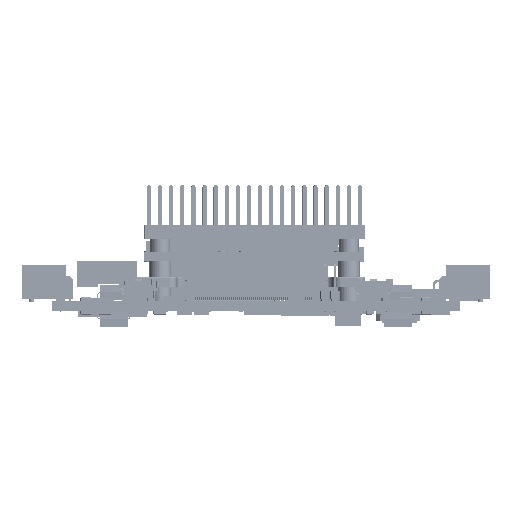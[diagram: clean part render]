
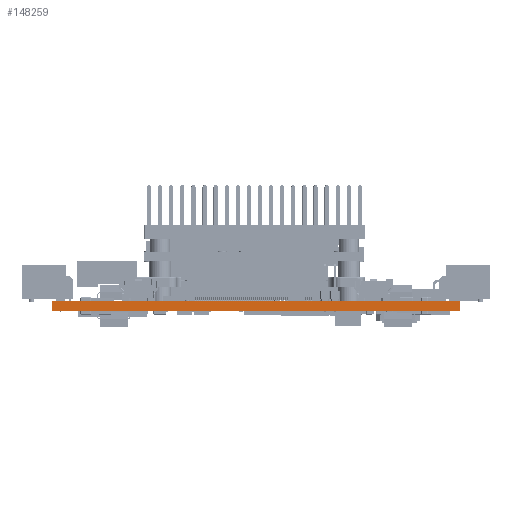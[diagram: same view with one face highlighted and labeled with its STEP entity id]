
A CAD part, left-side view. The second image highlights one B-rep face of the part: STEP entity #148259.
In plain terms, the highlighted planar face has unit normal (-1, 0, 0).
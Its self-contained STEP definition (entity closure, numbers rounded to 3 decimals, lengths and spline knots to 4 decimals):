
#56058=DIRECTION('',(0.,1.,0.));
#56059=VECTOR('',#56058,4.0158);
#56060=CARTESIAN_POINT('',(0.,0.,0.));
#56061=LINE('',#56060,#56059);
#56062=DIRECTION('',(0.,-1.,0.));
#56063=VECTOR('',#56062,4.0158);
#56064=CARTESIAN_POINT('',(0.,4.0158,-0.0931));
#56065=LINE('',#56064,#56063);
#56078=DIRECTION('',(0.,0.,-1.));
#56079=VECTOR('',#56078,0.0931);
#56080=CARTESIAN_POINT('',(0.,0.,0.));
#56081=LINE('',#56080,#56079);
#56098=DIRECTION('',(0.,0.,1.));
#56099=VECTOR('',#56098,0.0931);
#56100=CARTESIAN_POINT('',(0.,4.0158,-0.0931));
#56101=LINE('',#56100,#56099);
#56106=CARTESIAN_POINT('',(0.,0.,0.));
#56107=CARTESIAN_POINT('',(0.,4.0158,0.));
#56108=VERTEX_POINT('',#56106);
#56109=VERTEX_POINT('',#56107);
#56114=CARTESIAN_POINT('',(0.,4.0158,-0.0931));
#56115=CARTESIAN_POINT('',(0.,0.,-0.0931));
#56116=VERTEX_POINT('',#56114);
#56117=VERTEX_POINT('',#56115);
#148246=CARTESIAN_POINT('',(0.,0.,0.));
#148247=DIRECTION('',(-1.,0.,0.));
#148248=DIRECTION('',(0.,1.,0.));
#148249=AXIS2_PLACEMENT_3D('',#148246,#148247,#148248);
#148250=PLANE('',#148249);
#148251=ORIENTED_EDGE('',*,*,#72143,.F.);
#148253=ORIENTED_EDGE('',*,*,#148252,.T.);
#148254=ORIENTED_EDGE('',*,*,#84199,.F.);
#148256=ORIENTED_EDGE('',*,*,#148255,.T.);
#148257=EDGE_LOOP('',(#148251,#148253,#148254,#148256));
#148258=FACE_OUTER_BOUND('',#148257,.F.);
#148259=ADVANCED_FACE('',(#148258),#148250,.T.);
#72143=EDGE_CURVE('',#56108,#56109,#56061,.T.);
#84199=EDGE_CURVE('',#56116,#56117,#56065,.T.);
#148252=EDGE_CURVE('',#56108,#56117,#56081,.T.);
#148255=EDGE_CURVE('',#56116,#56109,#56101,.T.);
